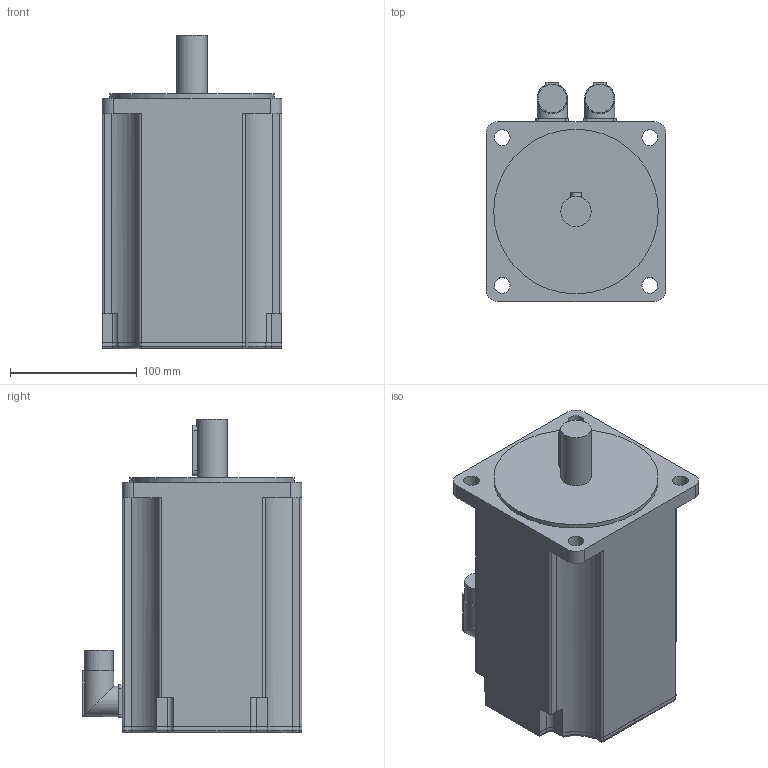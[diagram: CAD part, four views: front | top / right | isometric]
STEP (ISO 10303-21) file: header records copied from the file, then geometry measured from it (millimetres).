
FILE_DESCRIPTION(/* description */ (''),/* implementation_level */ '2;1');
FILE_NAME(/* name */ '\\Lafnas01\disegni\Archivi Lafert\3D\CAD 3D\MODELLI\Assiemi clienti\Serad\Modelli 3D Serad\B71Q\Resolver\Res Without Brake\B7112Qxx6A052033.ipt.stp',/* time_stamp */ '2015-09-07T10:53:00+02:00',/* author */ ('Pastrello Ylenia'),/* organization */ (''),/* preprocessor_version */ 'ST-DEVELOPER v15.6',/* originating_system */ 'Autodesk Inventor 2015',/* authorisation */ '');
FILE_SCHEMA (('AUTOMOTIVE_DESIGN { 1 0 10303 214 3 1 1 }'));
Length unit declared in the file: millimetre
Products named in the file (1): B7112Qxx6A052033
Bounding box: 142 x 173.5 x 248 mm (x, y, z)
Volume: 3573916 mm3; surface area: 157844.4 mm2
Topology: 1 solids, 1 shells, 154 faces, 400 edges, 258 vertices
Faces by surface type: plane 72, cylinder 70, torus 8, sphere 4
Full cylindrical faces by diameter (mm): 12.5 x4, 22.7 x2, 24 x3, 130 x1
Entity records: 4790 total; most frequent: CARTESIAN_POINT 933, DIRECTION 828, ORIENTED_EDGE 772, EDGE_CURVE 386, AXIS2_PLACEMENT_3D 297, VERTEX_POINT 254, LINE 234, VECTOR 234
